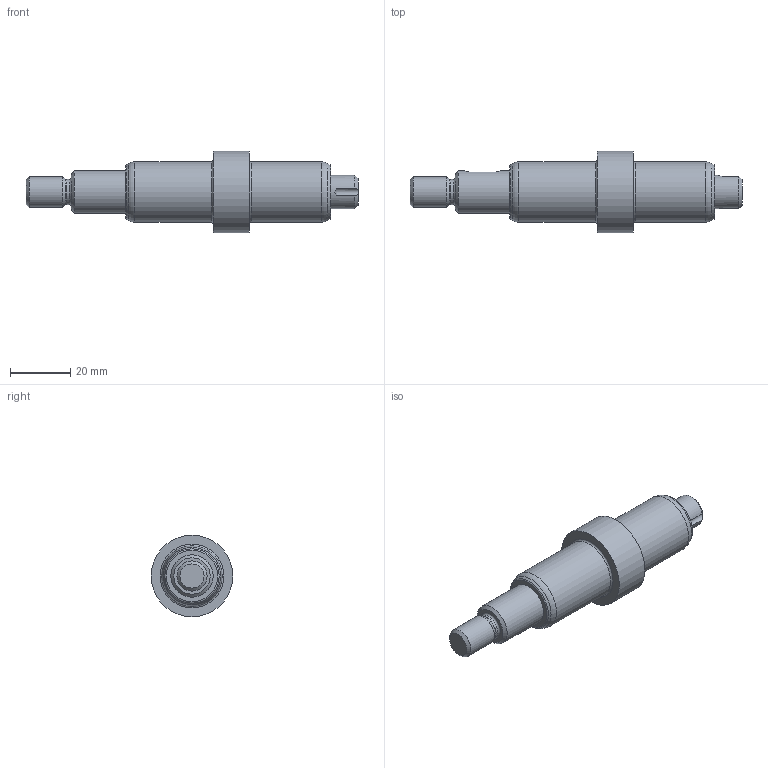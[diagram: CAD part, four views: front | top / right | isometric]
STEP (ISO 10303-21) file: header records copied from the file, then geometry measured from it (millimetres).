
FILE_DESCRIPTION(/* description */ (''),/* implementation_level */ '2;1');
FILE_NAME(/* name */ 'C:\Users\NET\Desktop\새 폴더\\X2\C81CCD9C\X0\\601205E1001-축.stp',/* time_stamp */ '2020-12-19T11:35:17+09:00',/* author */ ('NET'),/* organization */ (''),/* preprocessor_version */ 'ST-DEVELOPER v15.2',/* originating_system */ 'Autodesk Inventor 2014',/* authorisation */ '');
FILE_SCHEMA (('AUTOMOTIVE_DESIGN { 1 0 10303 214 3 1 1 }'));
Length unit declared in the file: millimetre
Products named in the file (1): 축
Bounding box: 110 x 27 x 27 mm (x, y, z)
Volume: 28780.4 mm3; surface area: 7155.6 mm2
Topology: 1 solids, 1 shells, 40 faces, 87 edges, 53 vertices
Faces by surface type: plane 13, cylinder 11, cone 8, torus 8
Full cylindrical faces by diameter (mm): 8.4 x1, 10 x1, 11 x1, 14 x1, 20 x2, 27 x1
Entity records: 1045 total; most frequent: CARTESIAN_POINT 239, DIRECTION 169, ORIENTED_EDGE 128, AXIS2_PLACEMENT_3D 75, EDGE_LOOP 66, EDGE_CURVE 64, VERTEX_POINT 52, ADVANCED_FACE 40
